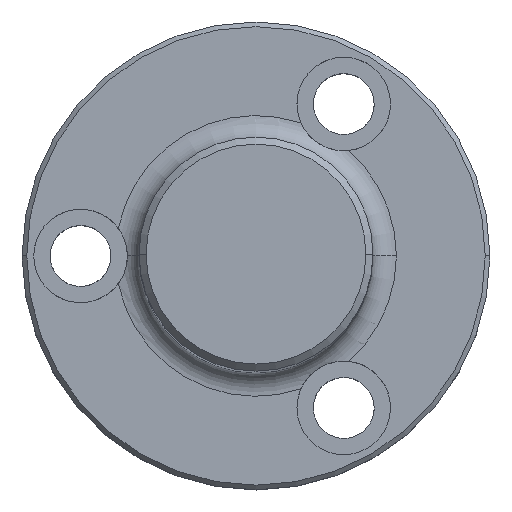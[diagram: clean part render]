
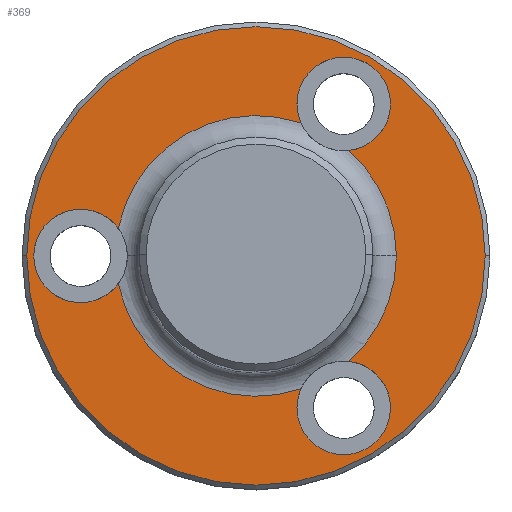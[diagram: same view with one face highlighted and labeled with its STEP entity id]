
A CAD part, top view. The second image highlights one B-rep face of the part: STEP entity #369.
In plain terms, the highlighted planar face has unit normal (0, 0, 1).
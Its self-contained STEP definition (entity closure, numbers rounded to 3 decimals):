
#89=CARTESIAN_POINT('Vertex',(-29.417,-5.887,20.)) ;
#92=CARTESIAN_POINT('Axis2P3D Location',(0.,0.,20.)) ;
#96=CARTESIAN_POINT('Vertex',(9.61,-28.419,20.)) ;
#121=CARTESIAN_POINT('Vertex',(19.807,-22.532,20.)) ;
#124=CARTESIAN_POINT('Axis2P3D Location',(0.,0.,20.)) ;
#128=CARTESIAN_POINT('Vertex',(30.,0.,20.)) ;
#187=CARTESIAN_POINT('Axis2P3D Location',(0.,0.,20.)) ;
#191=CARTESIAN_POINT('Vertex',(19.807,22.532,20.)) ;
#216=CARTESIAN_POINT('Vertex',(9.61,28.419,20.)) ;
#219=CARTESIAN_POINT('Axis2P3D Location',(0.,0.,20.)) ;
#223=CARTESIAN_POINT('Vertex',(-29.417,5.887,20.)) ;
#268=CARTESIAN_POINT('Vertex',(-47.5,0.,20.)) ;
#271=CARTESIAN_POINT('Axis2P3D Location',(-37.5,0.,20.)) ;
#289=CARTESIAN_POINT('Axis2P3D Location',(0.,0.,20.)) ;
#294=CARTESIAN_POINT('Axis2P3D Location',(0.,0.,20.)) ;
#298=CARTESIAN_POINT('Vertex',(-49.,0.,20.)) ;
#300=CARTESIAN_POINT('Vertex',(49.,0.,20.)) ;
#303=CARTESIAN_POINT('Axis2P3D Location',(0.,0.,20.)) ;
#312=CARTESIAN_POINT('Axis2P3D Location',(18.75,-32.476,20.)) ;
#316=CARTESIAN_POINT('Vertex',(8.75,-32.476,20.)) ;
#319=CARTESIAN_POINT('Axis2P3D Location',(-37.5,0.,20.)) ;
#324=CARTESIAN_POINT('Axis2P3D Location',(18.75,32.476,20.)) ;
#328=CARTESIAN_POINT('Vertex',(8.75,32.476,20.)) ;
#331=CARTESIAN_POINT('Axis2P3D Location',(18.75,32.476,20.)) ;
#335=CARTESIAN_POINT('Vertex',(28.75,32.476,20.)) ;
#338=CARTESIAN_POINT('Axis2P3D Location',(18.75,32.476,20.)) ;
#343=CARTESIAN_POINT('Axis2P3D Location',(18.75,-32.476,20.)) ;
#347=CARTESIAN_POINT('Vertex',(28.75,-32.476,20.)) ;
#350=CARTESIAN_POINT('Axis2P3D Location',(18.75,-32.476,20.)) ;
#93=DIRECTION('Axis2P3D Direction',(0.,0.,1.)) ;
#125=DIRECTION('Axis2P3D Direction',(0.,0.,1.)) ;
#188=DIRECTION('Axis2P3D Direction',(0.,0.,1.)) ;
#220=DIRECTION('Axis2P3D Direction',(0.,0.,1.)) ;
#272=DIRECTION('Axis2P3D Direction',(0.,-0.,1.)) ;
#290=DIRECTION('Axis2P3D Direction',(0.,0.,1.)) ;
#291=DIRECTION('Axis2P3D XDirection',(1.,0.,-0.)) ;
#295=DIRECTION('Axis2P3D Direction',(0.,0.,1.)) ;
#304=DIRECTION('Axis2P3D Direction',(0.,0.,1.)) ;
#313=DIRECTION('Axis2P3D Direction',(0.,0.,1.)) ;
#320=DIRECTION('Axis2P3D Direction',(0.,0.,1.)) ;
#325=DIRECTION('Axis2P3D Direction',(0.,0.,1.)) ;
#332=DIRECTION('Axis2P3D Direction',(0.,0.,1.)) ;
#339=DIRECTION('Axis2P3D Direction',(0.,0.,1.)) ;
#344=DIRECTION('Axis2P3D Direction',(0.,0.,1.)) ;
#351=DIRECTION('Axis2P3D Direction',(0.,0.,1.)) ;
#94=AXIS2_PLACEMENT_3D('Circle Axis2P3D',#92,#93,$) ;
#126=AXIS2_PLACEMENT_3D('Circle Axis2P3D',#124,#125,$) ;
#189=AXIS2_PLACEMENT_3D('Circle Axis2P3D',#187,#188,$) ;
#221=AXIS2_PLACEMENT_3D('Circle Axis2P3D',#219,#220,$) ;
#273=AXIS2_PLACEMENT_3D('Circle Axis2P3D',#271,#272,$) ;
#292=AXIS2_PLACEMENT_3D('Plane Axis2P3D',#289,#290,#291) ;
#296=AXIS2_PLACEMENT_3D('Circle Axis2P3D',#294,#295,$) ;
#305=AXIS2_PLACEMENT_3D('Circle Axis2P3D',#303,#304,$) ;
#314=AXIS2_PLACEMENT_3D('Circle Axis2P3D',#312,#313,$) ;
#321=AXIS2_PLACEMENT_3D('Circle Axis2P3D',#319,#320,$) ;
#326=AXIS2_PLACEMENT_3D('Circle Axis2P3D',#324,#325,$) ;
#333=AXIS2_PLACEMENT_3D('Circle Axis2P3D',#331,#332,$) ;
#340=AXIS2_PLACEMENT_3D('Circle Axis2P3D',#338,#339,$) ;
#345=AXIS2_PLACEMENT_3D('Circle Axis2P3D',#343,#344,$) ;
#352=AXIS2_PLACEMENT_3D('Circle Axis2P3D',#350,#351,$) ;
#309=ORIENTED_EDGE('',*,*,#302,.T.) ;
#310=ORIENTED_EDGE('',*,*,#307,.T.) ;
#356=ORIENTED_EDGE('',*,*,#318,.F.) ;
#357=ORIENTED_EDGE('',*,*,#98,.T.) ;
#358=ORIENTED_EDGE('',*,*,#275,.F.) ;
#359=ORIENTED_EDGE('',*,*,#323,.F.) ;
#360=ORIENTED_EDGE('',*,*,#225,.T.) ;
#361=ORIENTED_EDGE('',*,*,#330,.F.) ;
#362=ORIENTED_EDGE('',*,*,#337,.F.) ;
#363=ORIENTED_EDGE('',*,*,#342,.F.) ;
#364=ORIENTED_EDGE('',*,*,#193,.T.) ;
#365=ORIENTED_EDGE('',*,*,#130,.T.) ;
#366=ORIENTED_EDGE('',*,*,#349,.F.) ;
#367=ORIENTED_EDGE('',*,*,#354,.F.) ;
#368=FACE_BOUND('',#355,.T.) ;
#369=ADVANCED_FACE('Raccordo1',(#311,#368),#293,.T.) ;
#95=CIRCLE('generated circle',#94,30.) ;
#127=CIRCLE('generated circle',#126,30.) ;
#190=CIRCLE('generated circle',#189,30.) ;
#222=CIRCLE('generated circle',#221,30.) ;
#274=CIRCLE('generated circle',#273,10.) ;
#297=CIRCLE('generated circle',#296,49.) ;
#306=CIRCLE('generated circle',#305,49.) ;
#315=CIRCLE('generated circle',#314,10.) ;
#322=CIRCLE('generated circle',#321,10.) ;
#327=CIRCLE('generated circle',#326,10.) ;
#334=CIRCLE('generated circle',#333,10.) ;
#341=CIRCLE('generated circle',#340,10.) ;
#346=CIRCLE('generated circle',#345,10.) ;
#353=CIRCLE('generated circle',#352,10.) ;
#98=EDGE_CURVE('',#97,#90,#95,.F.) ;
#130=EDGE_CURVE('',#129,#122,#127,.F.) ;
#193=EDGE_CURVE('',#192,#129,#190,.F.) ;
#225=EDGE_CURVE('',#224,#217,#222,.F.) ;
#275=EDGE_CURVE('',#269,#90,#274,.T.) ;
#302=EDGE_CURVE('',#299,#301,#297,.T.) ;
#307=EDGE_CURVE('',#301,#299,#306,.T.) ;
#318=EDGE_CURVE('',#97,#317,#315,.T.) ;
#323=EDGE_CURVE('',#224,#269,#322,.T.) ;
#330=EDGE_CURVE('',#329,#217,#327,.T.) ;
#337=EDGE_CURVE('',#336,#329,#334,.T.) ;
#342=EDGE_CURVE('',#192,#336,#341,.T.) ;
#349=EDGE_CURVE('',#348,#122,#346,.T.) ;
#354=EDGE_CURVE('',#317,#348,#353,.T.) ;
#308=EDGE_LOOP('',(#309,#310)) ;
#355=EDGE_LOOP('',(#356,#357,#358,#359,#360,#361,#362,#363,#364,#365,#366,#367)) ;
#311=FACE_OUTER_BOUND('',#308,.T.) ;
#293=PLANE('Plane',#292) ;
#90=VERTEX_POINT('',#89) ;
#97=VERTEX_POINT('',#96) ;
#122=VERTEX_POINT('',#121) ;
#129=VERTEX_POINT('',#128) ;
#192=VERTEX_POINT('',#191) ;
#217=VERTEX_POINT('',#216) ;
#224=VERTEX_POINT('',#223) ;
#269=VERTEX_POINT('',#268) ;
#299=VERTEX_POINT('',#298) ;
#301=VERTEX_POINT('',#300) ;
#317=VERTEX_POINT('',#316) ;
#329=VERTEX_POINT('',#328) ;
#336=VERTEX_POINT('',#335) ;
#348=VERTEX_POINT('',#347) ;
